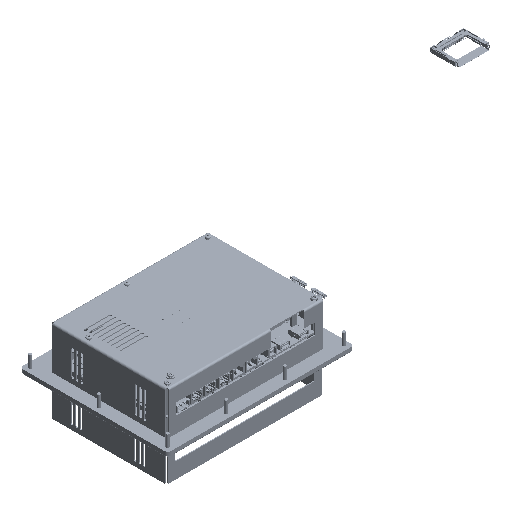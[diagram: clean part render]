
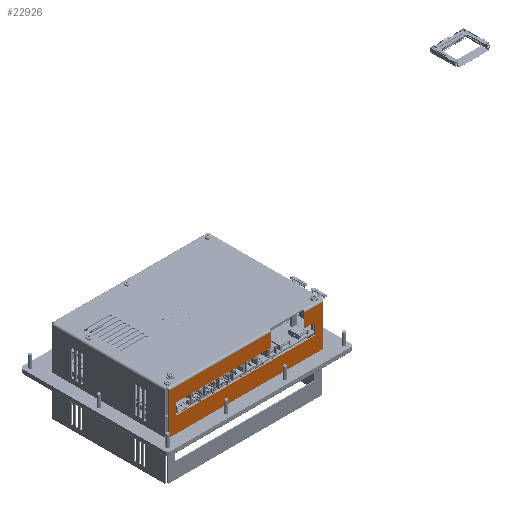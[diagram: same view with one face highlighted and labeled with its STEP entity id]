
A CAD part, isometric view. The second image highlights one B-rep face of the part: STEP entity #22926.
In plain terms, the highlighted planar face has unit normal (0, -1, 0).
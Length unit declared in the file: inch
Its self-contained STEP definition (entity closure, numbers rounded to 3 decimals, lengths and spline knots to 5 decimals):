
#22926 = ADVANCED_FACE( '', ( #51719 ), #51720, .T. );
#51719 = FACE_OUTER_BOUND( '', #87792, .T. );
#51720 = PLANE( '', #87793 );
#87792 = EDGE_LOOP( '', ( #161996, #161997, #161998, #161999, #162000, #162001, #162002, #162003, #162004, #162005, #162006, #162007 ) );
#87793 = AXIS2_PLACEMENT_3D( '', #162008, #162009, #162010 );
#161996 = ORIENTED_EDGE( '', *, *, #243143, .F. );
#161997 = ORIENTED_EDGE( '', *, *, #243765, .T. );
#161998 = ORIENTED_EDGE( '', *, *, #226427, .T. );
#161999 = ORIENTED_EDGE( '', *, *, #216286, .T. );
#162000 = ORIENTED_EDGE( '', *, *, #242010, .T. );
#162001 = ORIENTED_EDGE( '', *, *, #243766, .T. );
#162002 = ORIENTED_EDGE( '', *, *, #243767, .F. );
#162003 = ORIENTED_EDGE( '', *, *, #243768, .T. );
#162004 = ORIENTED_EDGE( '', *, *, #243769, .T. );
#162005 = ORIENTED_EDGE( '', *, *, #229264, .T. );
#162006 = ORIENTED_EDGE( '', *, *, #221549, .T. );
#162007 = ORIENTED_EDGE( '', *, *, #217353, .T. );
#162008 = CARTESIAN_POINT( '', ( 4.2637, -3.23, -0.04571 ) );
#162009 = DIRECTION( '', ( 0., -1., 0. ) );
#162010 = DIRECTION( '', ( 0., 0., -1. ) );
#216286 = EDGE_CURVE( '', #261830, #261828, #261831, .T. );
#217353 = EDGE_CURVE( '', #263770, #263768, #263771, .T. );
#221549 = EDGE_CURVE( '', #271154, #263770, #271155, .T. );
#226427 = EDGE_CURVE( '', #279488, #261830, #279489, .T. );
#229264 = EDGE_CURVE( '', #284117, #271154, #284118, .T. );
#242010 = EDGE_CURVE( '', #261828, #303195, #303197, .T. );
#243143 = EDGE_CURVE( '', #304723, #263768, #304725, .T. );
#243765 = EDGE_CURVE( '', #304723, #279488, #305610, .T. );
#243766 = EDGE_CURVE( '', #303195, #305611, #305612, .T. );
#243767 = EDGE_CURVE( '', #305613, #305611, #305614, .T. );
#243768 = EDGE_CURVE( '', #305613, #305615, #305616, .T. );
#243769 = EDGE_CURVE( '', #305615, #284117, #305617, .T. );
#261828 = VERTEX_POINT( '', #339346 );
#261830 = VERTEX_POINT( '', #339349 );
#261831 = LINE( '', #339350, #339351 );
#263768 = VERTEX_POINT( '', #342247 );
#263770 = VERTEX_POINT( '', #342249 );
#263771 = LINE( '', #342250, #342251 );
#271154 = VERTEX_POINT( '', #353221 );
#271155 = LINE( '', #353222, #353223 );
#279488 = VERTEX_POINT( '', #365582 );
#279489 = LINE( '', #365583, #365584 );
#284117 = VERTEX_POINT( '', #372615 );
#284118 = LINE( '', #372616, #372617 );
#303195 = VERTEX_POINT( '', #402188 );
#303197 = LINE( '', #402191, #402192 );
#304723 = VERTEX_POINT( '', #404594 );
#304725 = LINE( '', #404597, #404598 );
#305610 = LINE( '', #405854, #405855 );
#305611 = VERTEX_POINT( '', #405856 );
#305612 = LINE( '', #405857, #405858 );
#305613 = VERTEX_POINT( '', #405859 );
#305614 = LINE( '', #405860, #405861 );
#305615 = VERTEX_POINT( '', #405862 );
#305616 = LINE( '', #405863, #405864 );
#305617 = LINE( '', #405865, #405866 );
#339346 = CARTESIAN_POINT( '', ( -3.8869, -3.23, -1.486 ) );
#339349 = CARTESIAN_POINT( '', ( 3.8081, -3.23, -1.486 ) );
#339350 = CARTESIAN_POINT( '', ( -3.8869, -3.23, -1.486 ) );
#339351 = VECTOR( '', #433020, 39.37008 );
#342247 = CARTESIAN_POINT( '', ( 3.2381, -3.23, -0.0958 ) );
#342249 = CARTESIAN_POINT( '', ( 4.2637, -3.23, -0.0958 ) );
#342250 = CARTESIAN_POINT( '', ( 4.2637, -3.23, -0.0958 ) );
#342251 = VECTOR( '', #434050, 39.37008 );
#353221 = CARTESIAN_POINT( '', ( 4.2637, -3.23, -2.3578 ) );
#353222 = CARTESIAN_POINT( '', ( 4.2637, -3.23, -0.04571 ) );
#353223 = VECTOR( '', #438412, 39.37008 );
#365582 = CARTESIAN_POINT( '', ( 3.8081, -3.23, -0.856 ) );
#365583 = CARTESIAN_POINT( '', ( 3.8081, -3.23, -1.486 ) );
#365584 = VECTOR( '', #443328, 39.37008 );
#372615 = CARTESIAN_POINT( '', ( -4.2637, -3.23, -2.3578 ) );
#372616 = CARTESIAN_POINT( '', ( -4.2637, -3.23, -2.3578 ) );
#372617 = VECTOR( '', #446245, 39.37008 );
#402188 = CARTESIAN_POINT( '', ( -3.8869, -3.23, -0.856 ) );
#402191 = CARTESIAN_POINT( '', ( -3.8869, -3.23, -0.856 ) );
#402192 = VECTOR( '', #458662, 39.37008 );
#404594 = CARTESIAN_POINT( '', ( 3.2381, -3.23, -0.856 ) );
#404597 = CARTESIAN_POINT( '', ( 3.2381, -3.23, -0.61 ) );
#404598 = VECTOR( '', #459641, 39.37008 );
#405854 = CARTESIAN_POINT( '', ( 3.8081, -3.23, -0.856 ) );
#405855 = VECTOR( '', #460327, 39.37008 );
#405856 = CARTESIAN_POINT( '', ( 1.3881, -3.23, -0.856 ) );
#405857 = CARTESIAN_POINT( '', ( 3.8081, -3.23, -0.856 ) );
#405858 = VECTOR( '', #460328, 39.37008 );
#405859 = CARTESIAN_POINT( '', ( 1.3881, -3.23, -0.0958 ) );
#405860 = CARTESIAN_POINT( '', ( 1.3881, -3.23, 0. ) );
#405861 = VECTOR( '', #460329, 39.37008 );
#405862 = CARTESIAN_POINT( '', ( -4.2637, -3.23, -0.0958 ) );
#405863 = CARTESIAN_POINT( '', ( 4.2637, -3.23, -0.0958 ) );
#405864 = VECTOR( '', #460330, 39.37008 );
#405865 = CARTESIAN_POINT( '', ( -4.2637, -3.23, -0.04571 ) );
#405866 = VECTOR( '', #460331, 39.37008 );
#433020 = DIRECTION( '', ( -1., 0., 0. ) );
#434050 = DIRECTION( '', ( -1., 0., 0. ) );
#438412 = DIRECTION( '', ( 0., 0., 1. ) );
#443328 = DIRECTION( '', ( 0., 0., -1. ) );
#446245 = DIRECTION( '', ( 1., 0., 0. ) );
#458662 = DIRECTION( '', ( 0., 0., 1. ) );
#459641 = DIRECTION( '', ( 0., 0., 1. ) );
#460327 = DIRECTION( '', ( 1., 0., 0. ) );
#460328 = DIRECTION( '', ( 1., 0., 0. ) );
#460329 = DIRECTION( '', ( 0., 0., -1. ) );
#460330 = DIRECTION( '', ( -1., 0., 0. ) );
#460331 = DIRECTION( '', ( 0., 0., -1. ) );
